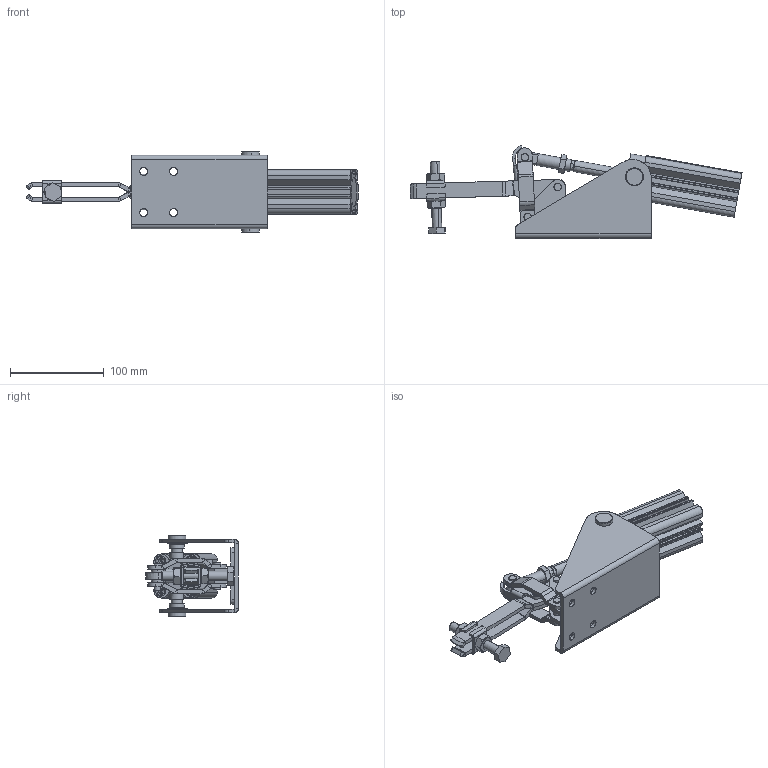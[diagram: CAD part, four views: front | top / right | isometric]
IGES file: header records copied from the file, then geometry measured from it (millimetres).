
Start section: SolidWorks IGES file using analytic representation for surfaces
Global section: file name: C:\Projetos\Grampos\KF-011 P\KF-011 DBL P\KF-011 DBL P.IGS; native system: SolidWorks 2015; preprocessor: SolidWorks 2015; author: Ricardo; date: 161215.082720; units: millimetre
Bounding box: 354.51 x 99.27 x 86.5 mm (x, y, z)
Surface area: 180269.8 mm2 (no closed solid volume)
Topology: 0 solids, 0 shells, 826 faces, 12576 edges, 12562 vertices
Faces by surface type: revolution 449, bspline 377
